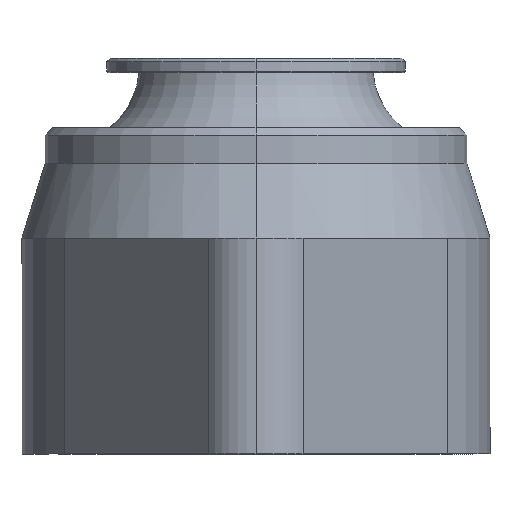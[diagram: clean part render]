
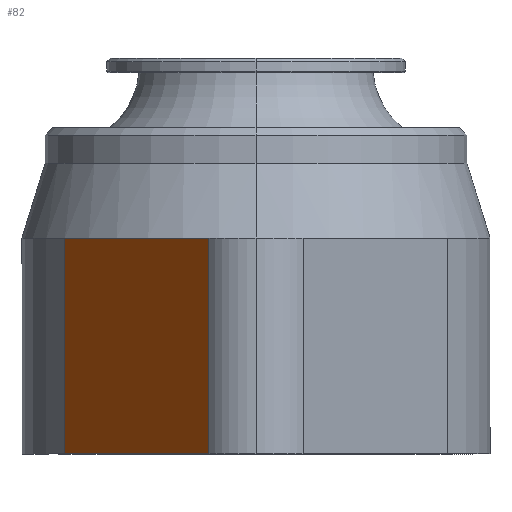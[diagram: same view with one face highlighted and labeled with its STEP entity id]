
A CAD part, left-side view. The second image highlights one B-rep face of the part: STEP entity #82.
In plain terms, the highlighted planar face has unit normal (-0.577, 0.817, 0).
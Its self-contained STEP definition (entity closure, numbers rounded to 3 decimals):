
#82=ADVANCED_FACE('',(#188),#189,.T.);
#188=FACE_OUTER_BOUND('',#385,.T.);
#189=PLANE('',#386);
#385=EDGE_LOOP('',(#806,#807,#808,#809));
#386=AXIS2_PLACEMENT_3D('',#810,#811,#812);
#806=ORIENTED_EDGE('',*,*,#1270,.T.);
#807=ORIENTED_EDGE('',*,*,#1281,.F.);
#808=ORIENTED_EDGE('',*,*,#1282,.F.);
#809=ORIENTED_EDGE('',*,*,#1253,.T.);
#810=CARTESIAN_POINT('',(-32.924,16.547,0.));
#811=DIRECTION('',(-0.576,0.817,0.0));
#812=DIRECTION('',(-0.817,-0.576,0.0));
#1253=EDGE_CURVE('',#1851,#1849,#1852,.T.);
#1270=EDGE_CURVE('',#1849,#1868,#1880,.T.);
#1281=EDGE_CURVE('',#1893,#1868,#1895,.T.);
#1282=EDGE_CURVE('',#1851,#1893,#1896,.T.);
#1849=VERTEX_POINT('',#2236);
#1851=VERTEX_POINT('',#2238);
#1852=LINE('',#2239,#2240);
#1868=VERTEX_POINT('',#2260);
#1880=LINE('',#2274,#2275);
#1893=VERTEX_POINT('',#2292);
#1895=LINE('',#2294,#2295);
#1896=LINE('',#2296,#2297);
#2236=CARTESIAN_POINT('',(-47.112,6.537,30.0));
#2238=CARTESIAN_POINT('',(-47.112,6.537,0.));
#2239=CARTESIAN_POINT('',(-47.112,6.537,0.));
#2240=VECTOR('',#2688,1.0);
#2260=CARTESIAN_POINT('',(-18.735,26.556,30.0));
#2274=CARTESIAN_POINT('',(-47.112,6.537,30.0));
#2275=VECTOR('',#2725,1.);
#2292=CARTESIAN_POINT('',(-18.735,26.556,0.));
#2294=CARTESIAN_POINT('',(-18.735,26.556,0.));
#2295=VECTOR('',#2748,1.0);
#2296=CARTESIAN_POINT('',(-47.112,6.537,0.));
#2297=VECTOR('',#2749,1.);
#2688=DIRECTION('',(0.0,0.0,1.0));
#2725=DIRECTION('',(0.817,0.576,0.0));
#2748=DIRECTION('',(0.0,0.0,1.0));
#2749=DIRECTION('',(0.817,0.576,0.0));
